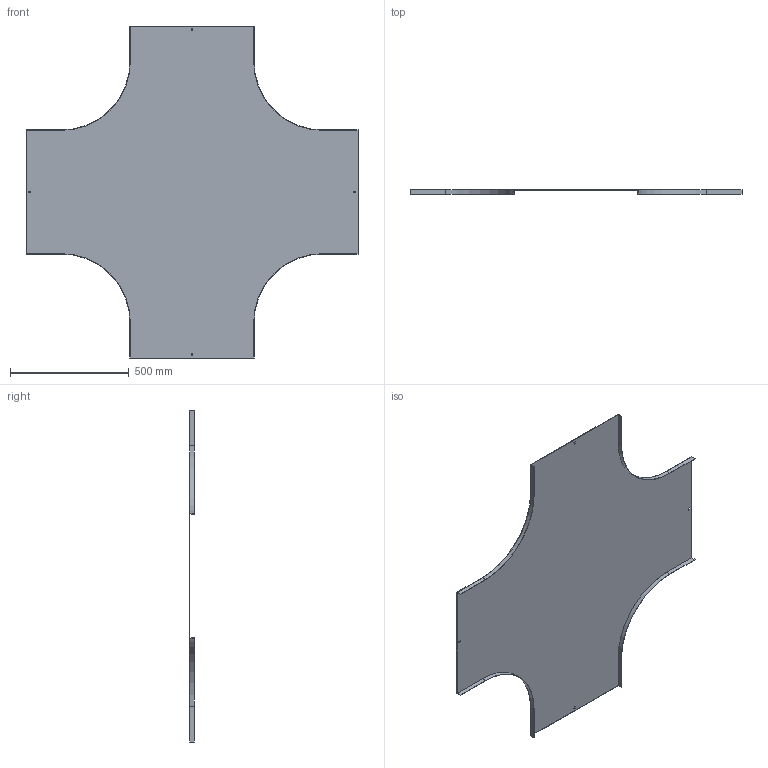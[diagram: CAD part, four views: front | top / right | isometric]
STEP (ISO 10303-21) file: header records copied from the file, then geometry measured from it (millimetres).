
FILE_DESCRIPTION (( 'STEP AP214' ), '1' );
FILE_NAME ('17N3P500.step', '2025-02-21T13:57:07', ( '' ), ( '' ), 'SwSTEP 2.0', 'SolidWorks 2023', '' );
FILE_SCHEMA (( 'AUTOMOTIVE_DESIGN' ));
Length unit declared in the file: millimetre
Products named in the file (1): 17N3P500
Bounding box: 1400 x 20 x 1400 mm (x, y, z)
Volume: 1976859.4 mm3; surface area: 2643877.6 mm2
Topology: 1 solids, 1 shells, 50 faces, 144 edges, 96 vertices
Faces by surface type: plane 42, cylinder 8
Entity records: 1663 total; most frequent: CARTESIAN_POINT 291, ORIENTED_EDGE 288, DIRECTION 262, EDGE_CURVE 144, LINE 128, VECTOR 128, VERTEX_POINT 96, AXIS2_PLACEMENT_3D 67
